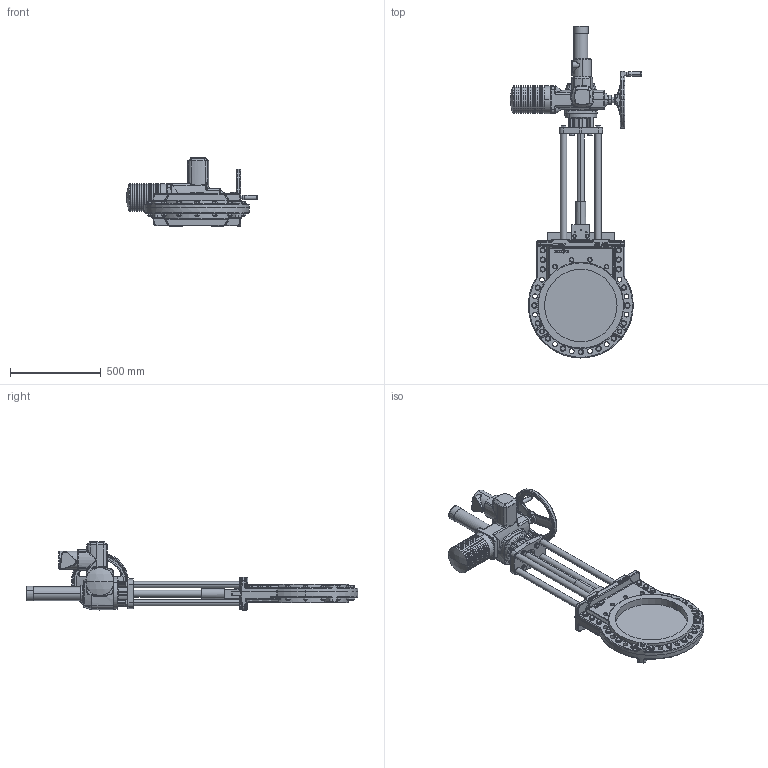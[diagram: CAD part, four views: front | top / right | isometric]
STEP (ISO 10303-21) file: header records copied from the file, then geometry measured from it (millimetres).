
FILE_DESCRIPTION (( 'STEP AP214' ), '1' );
FILE_NAME ('MGE DN 0400 PN10 (SA 14.2).STEP', '2015-09-23T08:42:05', ( 'admin' ), ( 'Hewlett-Packard Company' ), 'SwSTEP 2.0', 'SolidWorks 2013', '' );
FILE_SCHEMA (( 'AUTOMOTIVE_DESIGN' ));
Length unit declared in the file: millimetre
Products named in the file (1): MGE DN 0400 PN10 (SA 14.2)
Bounding box: 725 x 1834 x 376.75 mm (x, y, z)
Volume: 39760542.8 mm3; surface area: 2796968.5 mm2
Topology: 92 solids, 106 shells, 3379 faces, 7796 edges, 4711 vertices
Faces by surface type: plane 1196, cylinder 951, cone 599, bspline 351, torus 242, sphere 40
Entity records: 161423 total; most frequent: CARTESIAN_POINT 48771, ORIENTED_EDGE 15460, DIRECTION 15424, EDGE_CURVE 7730, AXIS2_PLACEMENT_3D 6221, VERTEX_POINT 4711, EDGE_LOOP 3755, UNCERTAINTY_MEASURE_WITH_UNIT 3471
